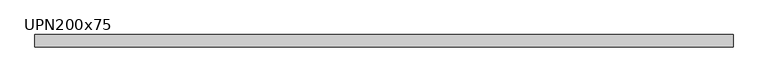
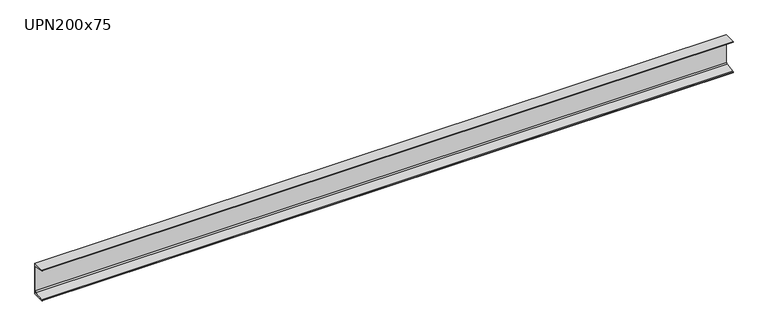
"""IFC4 building model written with IfcOpenShell, lengths in millimetres: beam geometry, M_MC Shapes : UPN200x75."""

from ifc_helpers import new_model, si_unit, point, frame, frame_2d, origin, place, context, project, spatial, polyline, circle_curve, trimmed, segment, composite_curve, outline, extrude, source, transform, mapped, element, save


def upn200x75_97ea6d6a(model_context):
    return source(origin(), model_context, "Body", "SweptSolid", [
        extrude(outline(composite_curve([segment(polyline([(10.9, 100.0), (10.9, -100.0), (-64.1, -100.0), (-64.1, -99.0253247)]), True, "CONTINUOUS"), segment(trimmed(circle_curve(frame_2d((-60.15, -99.0253247)), 3.95), [point((-64.1, -99.0253247))], [point((-60.7993773, -95.1290689))], False, "CARTESIAN"), True, "CONTINUOUS"), segment(polyline([(-60.7993773, -95.1290689), (-0.2512455, -85.0376935)]), True, "CONTINUOUS"), segment(trimmed(circle_curve(frame_2d((-1.55, -77.2451819)), 7.9), [point((-0.2512455, -85.0376935))], [point((6.35, -77.2451819))], True, "CARTESIAN"), True, "CONTINUOUS"), segment(polyline([(6.35, -77.2451819), (6.35, 77.2451819)]), True, "CONTINUOUS"), segment(trimmed(circle_curve(frame_2d((-1.55, 77.2451819)), 7.9), [point((6.35, 77.2451819))], [point((-0.2512455, 85.0376935))], True, "CARTESIAN"), True, "CONTINUOUS"), segment(polyline([(-0.2512455, 85.0376935), (-60.7993773, 95.1290689)]), True, "CONTINUOUS"), segment(trimmed(circle_curve(frame_2d((-60.15, 99.0253247)), 3.95), [point((-60.7993773, 95.1290689))], [point((-64.1, 99.0253247))], False, "CARTESIAN"), True, "CONTINUOUS"), segment(polyline([(-64.1, 99.0253247), (-64.1, 100.0), (10.9, 100.0)]), True, "CONTINUOUS")], self_intersect=False)), frame((-2131.65, 0.0, 0.0), z_axis=(1.0, 0.0, 0.0), x_axis=(0.0, 1.0, 0.0)), (0.0, 0.0, 1.0), 4263.3),
    ])


if __name__ == "__main__":
    model = new_model("IFC4")
    model_context = context("Model", 3, world=origin())
    ifc_project = project(units=[si_unit("LENGTHUNIT", "METRE", prefix="MILLI")], contexts=[model_context])
    site = spatial("IfcSite", under=ifc_project)
    building = spatial("IfcBuilding", under=site)
    placement = place(None, origin())
    upn200x75_shape = upn200x75_97ea6d6a(model_context)
    element("IfcBeam", 1, ObjectType="M_MC Shapes : UPN200x75", at=placement, inside=building, context=model_context, shape_type="MappedRepresentation", body=[
        mapped(upn200x75_shape, transform((0.0, 0.0, 0.0), x_axis=(1.0, 0.0, 0.0), y_axis=(0.0, 1.0, 0.0), z_axis=(0.0, 0.0, 1.0))),
    ])
    save(model, "model.ifc")
